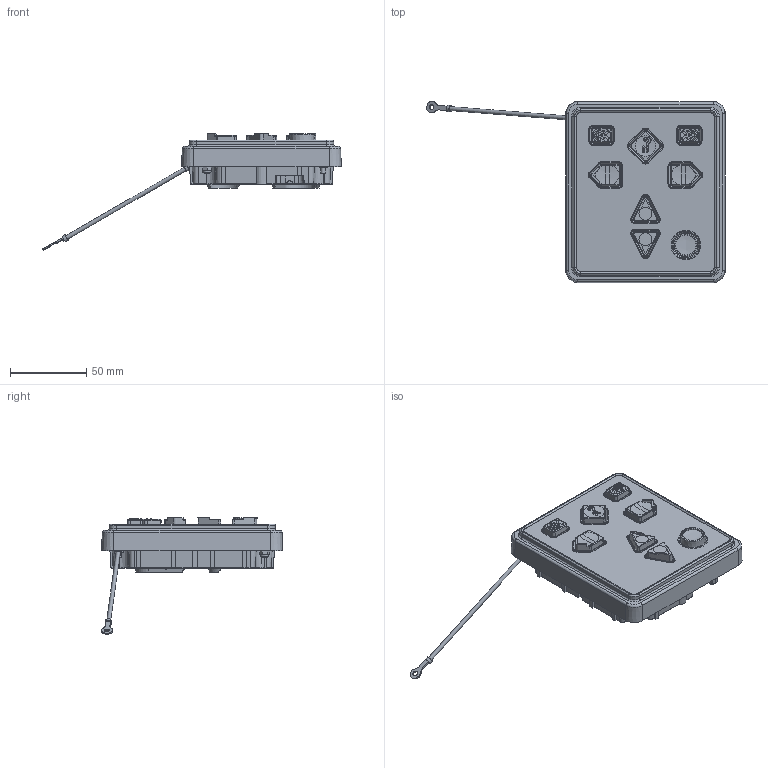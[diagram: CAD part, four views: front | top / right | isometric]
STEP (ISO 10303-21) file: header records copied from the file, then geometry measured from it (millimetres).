
FILE_DESCRIPTION (( 'STEP AP214' ), '1' );
FILE_NAME ('EZ08-22301~1.STEP', '2019-05-17T16:06:30', ( '' ), ( '' ), 'SwSTEP 2.0', 'SolidWorks 2018', '' );
FILE_SCHEMA (( 'AUTOMOTIVE_DESIGN' ));
Length unit declared in the file: millimetre
Products named in the file (1): EZ08-22301~1
Bounding box: 195.37 x 118.68 x 76.15 mm (x, y, z)
Volume: 225063.8 mm3; surface area: 95306.3 mm2
Topology: 4 solids, 30 shells, 4141 faces, 10544 edges, 6556 vertices
Faces by surface type: plane 1780, cylinder 1134, bspline 387, cone 379, sphere 240, torus 221
Full cylindrical faces by diameter (mm): 1 x1, 1.5 x1, 2.5 x2, 2.6 x1, 3 x4, 3.3 x2, 4.3 x2, 5 x4, 16.4 x1, 19.4 x1
Entity records: 186765 total; most frequent: CARTESIAN_POINT 49060, ORIENTED_EDGE 20758, DIRECTION 17695, EDGE_CURVE 10379, VERTEX_POINT 6504, AXIS2_PLACEMENT_3D 6084, VECTOR 5527, LINE 5527
